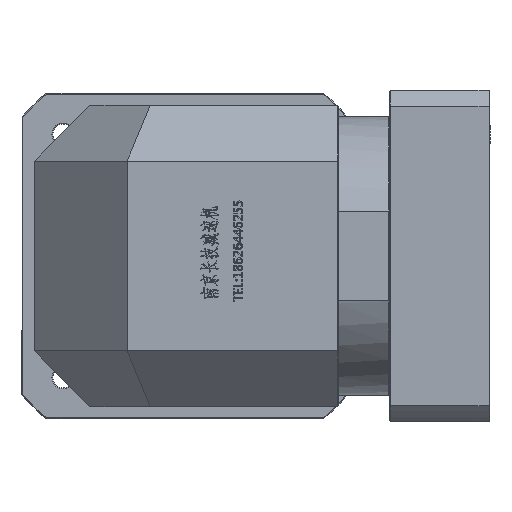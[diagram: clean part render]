
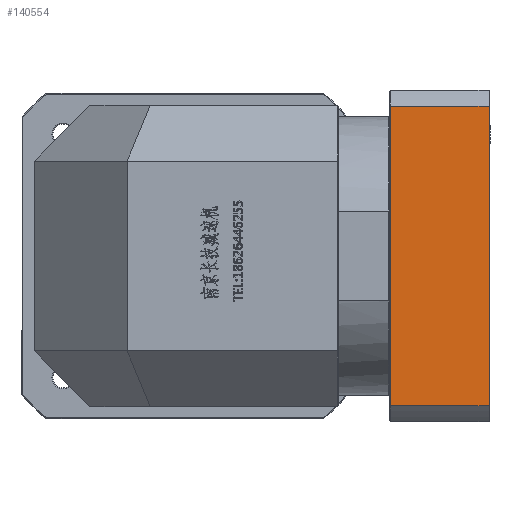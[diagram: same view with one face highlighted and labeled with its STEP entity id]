
A CAD part, left-side view. The second image highlights one B-rep face of the part: STEP entity #140554.
In plain terms, the highlighted planar face has unit normal (-1, 0, 0).
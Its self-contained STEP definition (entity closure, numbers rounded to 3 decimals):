
#11869 = EDGE_CURVE ( 'NONE', #59294, #68174, #69797, .T. ) ;
#12772 = ORIENTED_EDGE ( 'NONE', *, *, #87053, .F. ) ;
#13064 = DIRECTION ( 'NONE',  ( 0., 1., 0. ) ) ;
#16591 = EDGE_CURVE ( 'NONE', #59294, #41736, #129686, .T. ) ;
#20051 = VECTOR ( 'NONE', #64731, 1000. ) ;
#20123 = DIRECTION ( 'NONE',  ( 0., -1., 0. ) ) ;
#28762 = LINE ( 'NONE', #119572, #119905 ) ;
#33642 = FACE_OUTER_BOUND ( 'NONE', #58619, .T. ) ;
#39595 = CARTESIAN_POINT ( 'NONE',  ( -107.659, -247.383, 164.77 ) ) ;
#41736 = VERTEX_POINT ( 'NONE', #47514 ) ;
#42117 = DIRECTION ( 'NONE',  ( 0., 1., 0. ) ) ;
#47514 = CARTESIAN_POINT ( 'NONE',  ( -107.659, -247.383, 325.755 ) ) ;
#55234 = VERTEX_POINT ( 'NONE', #39595 ) ;
#55583 = CARTESIAN_POINT ( 'NONE',  ( -107.659, -194.383, 164.77 ) ) ;
#58619 = EDGE_LOOP ( 'NONE', ( #145734, #119323, #87604, #12772 ) ) ;
#59294 = VERTEX_POINT ( 'NONE', #144598 ) ;
#63189 = CARTESIAN_POINT ( 'NONE',  ( -107.659, -247.383, 156.262 ) ) ;
#64731 = DIRECTION ( 'NONE',  ( 0., 0., -1. ) ) ;
#66533 = LINE ( 'NONE', #63189, #20051 ) ;
#67016 = DIRECTION ( 'NONE',  ( 1., 0., 0. ) ) ;
#68174 = VERTEX_POINT ( 'NONE', #55583 ) ;
#69797 = LINE ( 'NONE', #70103, #136786 ) ;
#70103 = CARTESIAN_POINT ( 'NONE',  ( -107.659, -194.383, 156.262 ) ) ;
#79977 = PLANE ( 'NONE',  #117219 ) ;
#85069 = DIRECTION ( 'NONE',  ( 0., 0., -1. ) ) ;
#87053 = EDGE_CURVE ( 'NONE', #41736, #55234, #66533, .T. ) ;
#87604 = ORIENTED_EDGE ( 'NONE', *, *, #139787, .F. ) ;
#91220 = CARTESIAN_POINT ( 'NONE',  ( -107.659, -247.883, 325.755 ) ) ;
#91392 = CARTESIAN_POINT ( 'NONE',  ( -107.659, -247.883, 156.262 ) ) ;
#117219 = AXIS2_PLACEMENT_3D ( 'NONE', #91392, #67016, #42117 ) ;
#119323 = ORIENTED_EDGE ( 'NONE', *, *, #11869, .T. ) ;
#119572 = CARTESIAN_POINT ( 'NONE',  ( -107.659, 148.922, 164.77 ) ) ;
#119905 = VECTOR ( 'NONE', #13064, 1000. ) ;
#129686 = LINE ( 'NONE', #91220, #152158 ) ;
#136786 = VECTOR ( 'NONE', #85069, 1000. ) ;
#139787 = EDGE_CURVE ( 'NONE', #55234, #68174, #28762, .T. ) ;
#140554 = ADVANCED_FACE ( 'NONE', ( #33642 ), #79977, .F. ) ;
#144598 = CARTESIAN_POINT ( 'NONE',  ( -107.659, -194.383, 325.755 ) ) ;
#145734 = ORIENTED_EDGE ( 'NONE', *, *, #16591, .F. ) ;
#152158 = VECTOR ( 'NONE', #20123, 1000. ) ;
